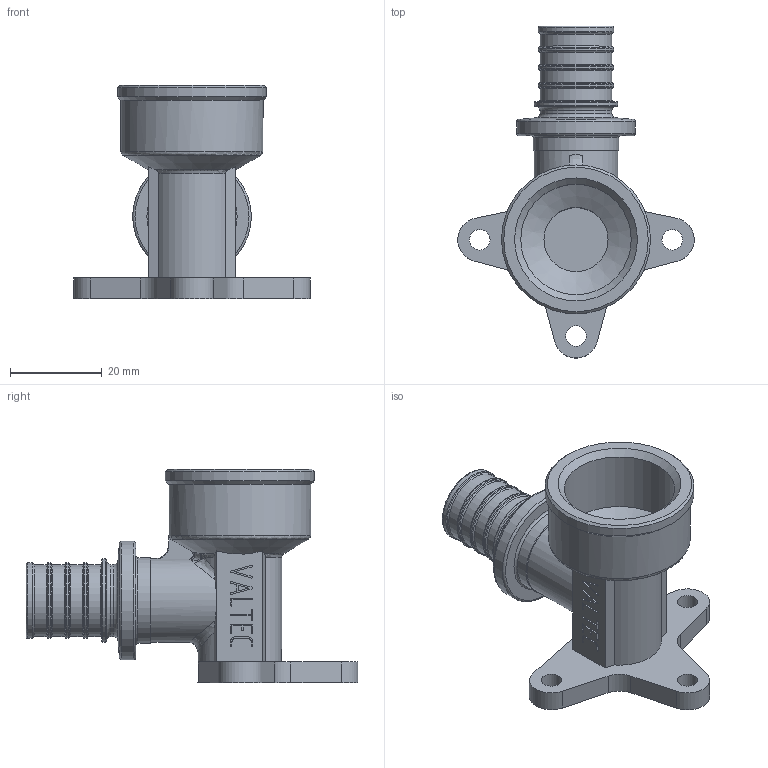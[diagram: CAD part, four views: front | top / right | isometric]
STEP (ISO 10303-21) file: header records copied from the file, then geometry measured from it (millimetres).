
FILE_DESCRIPTION(('STEP AP203'), '1');
FILE_NAME('VTm.454.G.002005', '2024-01-24T09:05:38', ('Boss'), (''), 'C3D Converter', 'C3D Toolkit', '');
FILE_SCHEMA(('CONFIG_CONTROL_DESIGN'));
Length unit declared in the file: millimetre
Products named in the file (1): ВР.731244.005
Bounding box: 51.6 x 72.38 x 46.5 mm (x, y, z)
Volume: 17078.2 mm3; surface area: 13001.5 mm2
Topology: 1 solids, 1 shells, 337 faces, 908 edges, 590 vertices
Faces by surface type: extrusion 142, plane 116, cylinder 30, torus 27, bspline 14, cone 8
Full cylindrical faces by diameter (mm): 4.5 x3, 12.5 x1, 14 x1, 15.7 x5, 16.5 x4, 18.2 x1, 18.3 x1, 18.7 x1, 24.118 x1, 25.9 x1, 31 x1, 32.5 x1
Entity records: 13478 total; most frequent: CARTESIAN_POINT 5848, ORIENTED_EDGE 1712, DIRECTION 1104, EDGE_CURVE 856, VERTEX_POINT 590, VECTOR 568, B_SPLINE_CURVE_WITH_KNOTS 483, LINE 426
